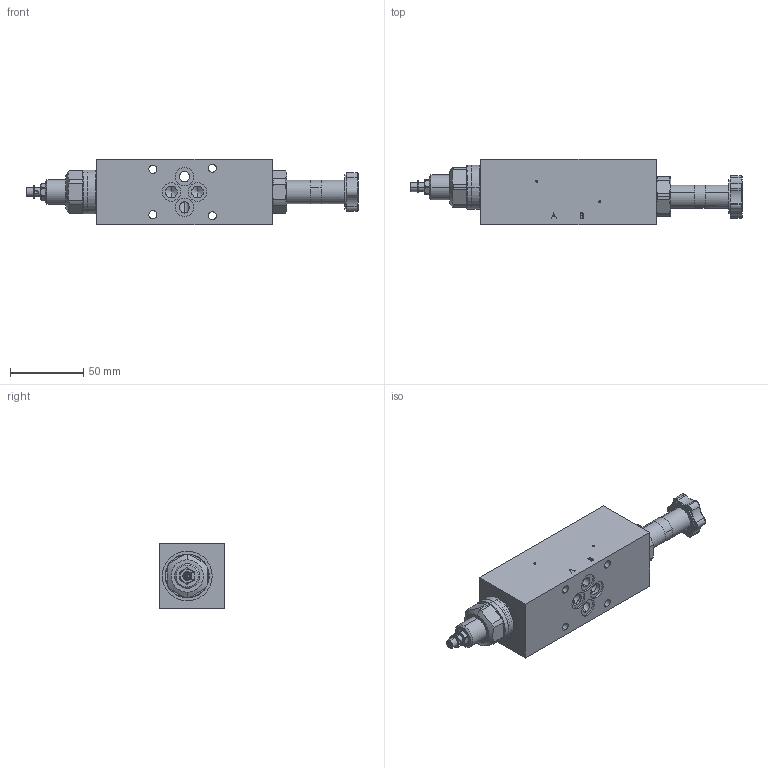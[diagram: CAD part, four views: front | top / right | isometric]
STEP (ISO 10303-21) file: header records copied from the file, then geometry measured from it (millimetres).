
FILE_DESCRIPTION (( 'STEP AP214' ), '1' );
FILE_NAME ('VQSSA06-T.STEP', '2017-04-06T11:05:45', ( '' ), ( '' ), 'SwSTEP 2.0', 'SolidWorks 2016', '' );
FILE_SCHEMA (( 'AUTOMOTIVE_DESIGN' ));
Length unit declared in the file: millimetre
Products named in the file (1): VQSSA06-T
Bounding box: 226.5 x 44.5 x 45 mm (x, y, z)
Volume: 267080.2 mm3; surface area: 40128.8 mm2
Topology: 3 solids, 3 shells, 337 faces, 828 edges, 511 vertices
Faces by surface type: cylinder 134, plane 105, cone 62, torus 27, bspline 9
Entity records: 14452 total; most frequent: CARTESIAN_POINT 2716, DIRECTION 1758, ORIENTED_EDGE 1620, EDGE_CURVE 810, AXIS2_PLACEMENT_3D 709, VERTEX_POINT 511, EDGE_LOOP 385, CIRCLE 380
